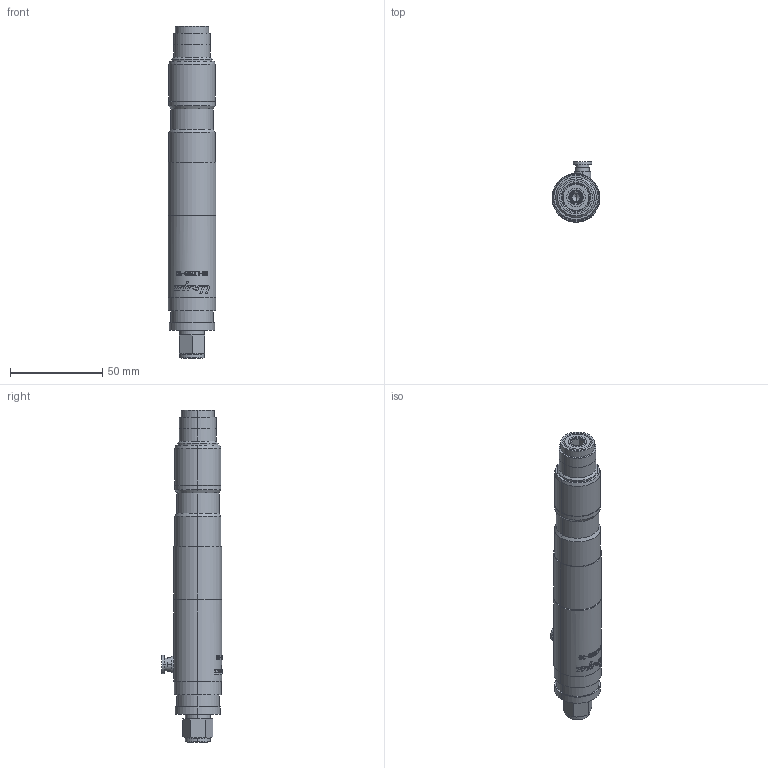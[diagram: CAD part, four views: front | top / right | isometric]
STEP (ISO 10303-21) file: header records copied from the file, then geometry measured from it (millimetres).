
FILE_DESCRIPTION (( 'STEP AP203' ), '1' );
FILE_NAME ('US-LT20B-10.STEP', '2006-03-22T03:57:45', ( '' ), ( '' ), 'SwSTEP 2.0', 'SolidWorks 2003240', '' );
FILE_SCHEMA (( 'CONFIG_CONTROL_DESIGN' ));
Length unit declared in the file: millimetre
Products named in the file (6): 4700258_US-LT20B-10_蹬怮椔; 8930551_US-LT20B-10_蹬怮椔; US-LT20B-10; 4703194_US-LT20B-10_蹬怮椔; 4705677_US-LT20B-10_蹬怮椔; 9810020_US-LT20B-10_蹬怮椔
Assembly tree (5 placements, depth 2):
  US-LT20B-10
    8930551_US-LT20B-10_蹬怮椔
    4705677_US-LT20B-10_蹬怮椔
    4703194_US-LT20B-10_蹬怮椔
    9810020_US-LT20B-10_蹬怮椔
    4700258_US-LT20B-10_蹬怮椔
Bounding box: 26 x 32.7 x 180 mm (x, y, z)
Volume: 78934.6 mm3; surface area: 20336.9 mm2
Topology: 5 solids, 5 shells, 385 faces, 966 edges, 630 vertices
Faces by surface type: plane 135, cylinder 131, bspline 91, cone 26, sphere 2
Entity records: 17363 total; most frequent: CARTESIAN_POINT 8292, ORIENTED_EDGE 1918, DIRECTION 1465, EDGE_CURVE 959, VERTEX_POINT 627, AXIS2_PLACEMENT_3D 536, EDGE_LOOP 432, VECTOR 393
